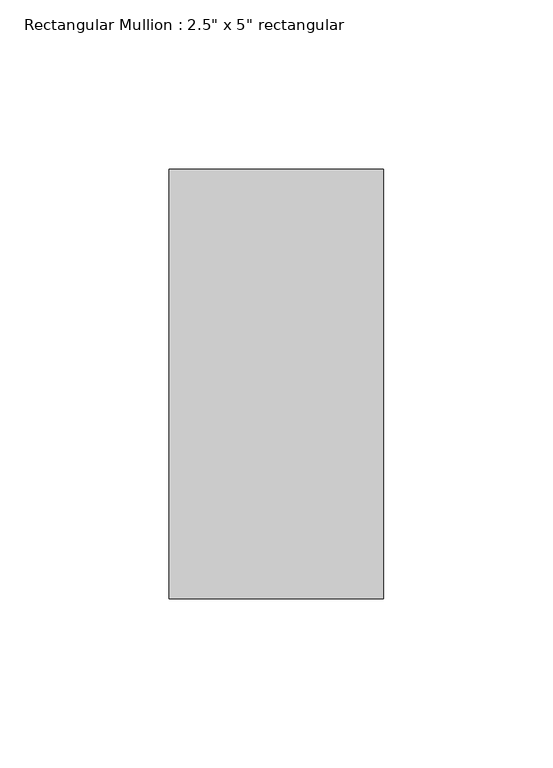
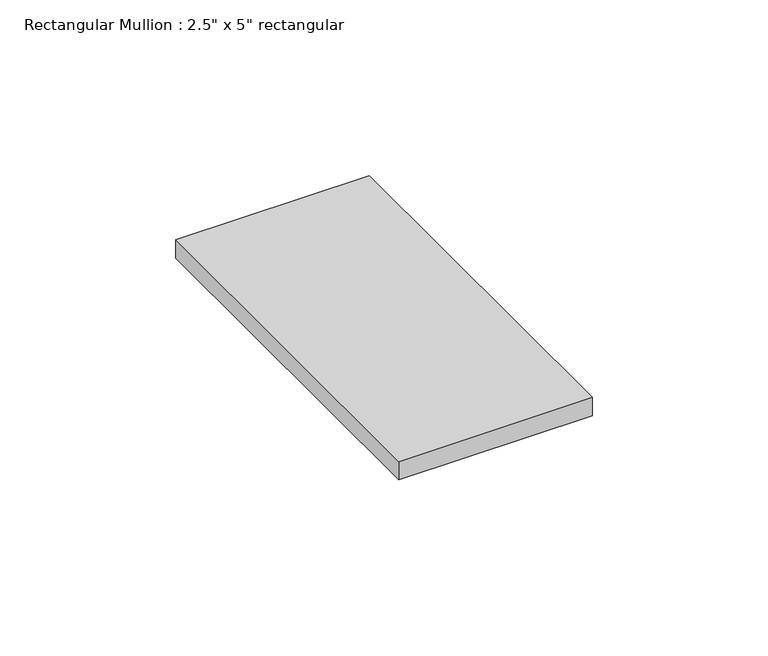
"""IFC4 building model written with IfcOpenShell, lengths in millimetres: member geometry."""

from ifc_helpers import new_model, si_unit, frame, origin, place, context, project, spatial, polyline, outline, extrude, source, transform, mapped, element, save


def member_6d48148e(model_context):
    return source(origin(), model_context, "Body", "SweptSolid", [
        extrude(outline(polyline([(31.75, 63.5), (31.75, -63.5), (-31.75, -63.5), (-31.75, 63.5), (31.75, 63.5)])), frame((0.0, 0.0, -6.35), z_axis=(0.0, 0.0, 1.0), x_axis=(1.0, 0.0, 0.0)), (0.0, 0.0, 1.0), 6.35),
    ])


if __name__ == "__main__":
    model = new_model("IFC4")
    model_context = context("Model", 3, world=origin())
    ifc_project = project(units=[si_unit("LENGTHUNIT", "METRE", prefix="MILLI")], contexts=[model_context])
    site = spatial("IfcSite", under=ifc_project)
    building = spatial("IfcBuilding", under=site)
    placement = place(None, origin())
    member_shape = member_6d48148e(model_context)
    element("IfcMember", 1, ObjectType="Rectangular Mullion : 2.5\" x 5\" rectangular", at=placement, inside=building, context=model_context, shape_type="MappedRepresentation", body=[
        mapped(member_shape, transform((0.0, 0.0, 0.0), x_axis=(1.0, 0.0, 0.0), y_axis=(0.0, 1.0, 0.0), z_axis=(0.0, 0.0, 1.0))),
    ])
    save(model, "model.ifc")
